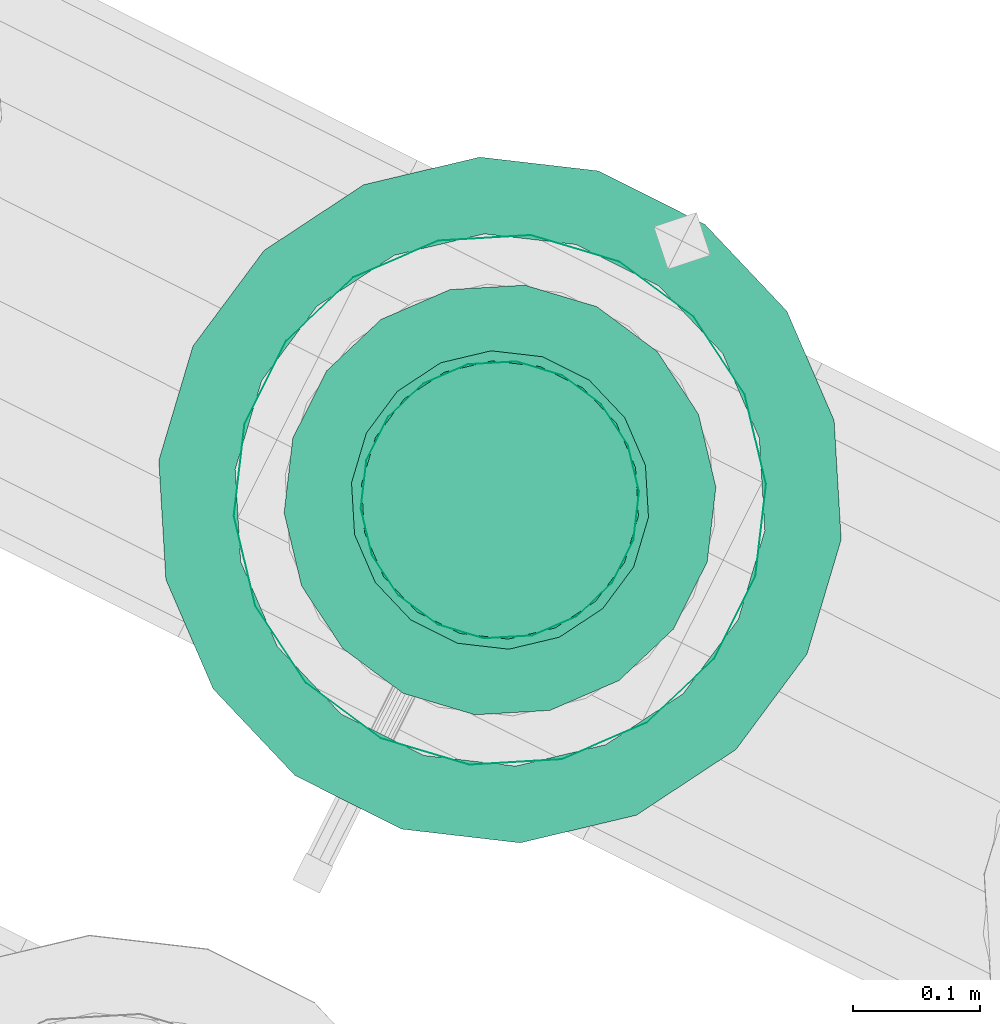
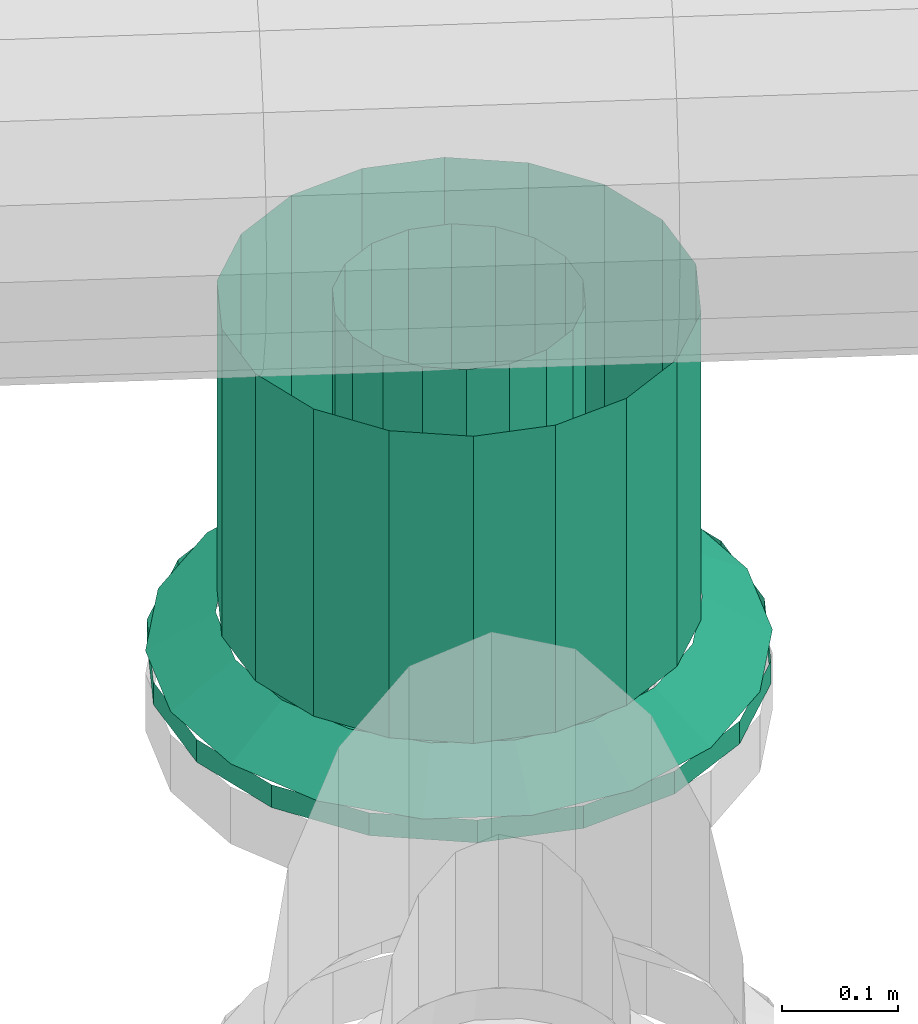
# One storey, part 93 of 152: 1 flow fitting, 1 flow segment.
"""IFC2X3 building model written with IfcOpenShell, lengths in metres."""

from ifc_helpers import new_model, si_unit, derived_unit, direction, frame, origin, place, context, subcontext, project, spatial, face_set, surface_model, source, transform, mapped, material, type_object, type_shapes, element, save


model = new_model("IFC2X3")

# Units and contexts
model_context = context("Model", 3, precision=5.2338327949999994e-05, world=origin(), true_north=direction((0.0, 1.0)))
body_context = subcontext(model_context, "Body", "Model", "MODEL_VIEW")
ifc_project = project(units=[si_unit("LENGTHUNIT", "METRE"), si_unit("AREAUNIT", "SQUARE_METRE"), si_unit("VOLUMEUNIT", "CUBIC_METRE"), si_unit("MASSUNIT", "GRAM", prefix="KILO"), si_unit("PLANEANGLEUNIT", "RADIAN"), derived_unit("THERMALTRANSMITTANCEUNIT", [(si_unit("MASSUNIT", "GRAM", prefix="KILO"), 1), (si_unit("THERMODYNAMICTEMPERATUREUNIT", "KELVIN"), -1), (si_unit("TIMEUNIT", "SECOND"), -3)])], contexts=[model_context])

# Site, building, storey
site_placement = place(None, frame((0.0, 0.0, 0.0), z_axis=(0.0, 0.0, 1.0), x_axis=(0.8939966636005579, -0.4480736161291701, 0.0)))
site = spatial("IfcSite", under=ifc_project, at=site_placement, Name="Default", CompositionType="ELEMENT")
building_placement = place(site_placement, origin())
building = spatial("IfcBuilding", under=site, at=building_placement, CompositionType="ELEMENT")
storey_placement = place(building_placement, frame((0.0, 0.0, 2.7499999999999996)))
storey = spatial("IfcBuildingStorey", under=building, at=storey_placement, Name="1. Obergeschoss", CompositionType="ELEMENT", Elevation=2.7499999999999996)

# Flow segment
ifc_material = material(Name="IfcSurfaceStyle #1741")
distribution_element_type_1 = type_object("IfcDistributionElementType", Name="Stahlrohr nach DIN 2448 247363:Stahlrohr nach DIN 2448 247363", material=ifc_material)
shared_shape_1 = source(origin(), body_context, "Body", "SurfaceModel", [
    surface_model("IfcFaceBasedSurfaceModel", [(5.8614190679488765, 7.902658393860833, 5.375028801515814), (5.82395076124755, 7.909265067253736, 5.375028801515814), (5.82395076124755, 7.909265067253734, 5.052622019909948), (5.8614190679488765, 7.902658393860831, 5.052622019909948), (5.791001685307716, 7.928288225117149, 5.375028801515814), (5.791001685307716, 7.928288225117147, 5.052622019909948), (5.766545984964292, 7.957433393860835, 5.375028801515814), (5.766545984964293, 7.957433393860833, 5.052622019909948), (5.753533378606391, 7.9931852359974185, 5.375028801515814), (5.753533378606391, 7.9931852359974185, 5.052622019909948), (5.753533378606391, 8.031231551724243, 5.375028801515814), (5.753533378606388, 8.031231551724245, 5.052622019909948), (5.766545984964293, 8.066983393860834, 5.375028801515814), (5.766545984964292, 8.066983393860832, 5.052622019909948), (5.791001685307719, 8.096128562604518, 5.375028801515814), (5.791001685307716, 8.096128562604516, 5.052622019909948), (5.823950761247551, 8.115151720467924, 5.375028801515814), (5.82395076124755, 8.115151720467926, 5.052622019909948), (5.861419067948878, 8.121758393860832, 5.375028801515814), (5.8614190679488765, 8.121758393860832, 5.052622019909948), (5.898887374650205, 8.115151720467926, 5.375028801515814), (5.898887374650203, 8.115151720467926, 5.052622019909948), (5.931836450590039, 8.096128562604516, 5.375028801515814), (5.931836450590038, 8.096128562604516, 5.052622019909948), (5.9562921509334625, 8.06698339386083, 5.375028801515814), (5.956292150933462, 8.06698339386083, 5.052622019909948), (5.969304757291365, 8.031231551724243, 5.375028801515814), (5.969304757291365, 8.031231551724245, 5.052622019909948), (5.969304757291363, 7.9931852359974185, 5.375028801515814), (5.969304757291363, 7.9931852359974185, 5.052622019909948), (5.956292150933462, 7.957433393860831, 5.375028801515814), (5.956292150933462, 7.957433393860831, 5.052622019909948), (5.931836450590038, 7.928288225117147, 5.375028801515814), (5.931836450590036, 7.928288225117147, 5.052622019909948), (5.8988873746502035, 7.909265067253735, 5.375028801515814), (5.898887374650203, 7.909265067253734, 5.052622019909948), (5.8614190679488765, 7.802658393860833, 5.375028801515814), (5.789748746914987, 7.815295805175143, 5.375028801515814), (5.789748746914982, 7.815295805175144, 5.052622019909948), (5.8614190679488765, 7.802658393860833, 5.052622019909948), (5.726722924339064, 7.85168378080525, 5.375028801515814), (5.726722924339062, 7.85168378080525, 5.052622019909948), (5.679943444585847, 7.907433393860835, 5.375028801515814), (5.679943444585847, 7.90743339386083, 5.052622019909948), (5.655052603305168, 7.975820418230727, 5.375028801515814), (5.655052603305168, 7.975820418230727, 5.052622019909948), (5.655052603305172, 8.048596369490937, 5.375028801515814), (5.655052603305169, 8.048596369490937, 5.052622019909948), (5.679943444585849, 8.116983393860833, 5.375028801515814), (5.679943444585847, 8.11698339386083, 5.052622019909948), (5.7267229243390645, 8.172733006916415, 5.375028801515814), (5.726722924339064, 8.172733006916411, 5.052622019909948), (5.789748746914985, 8.20912098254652, 5.375028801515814), (5.789748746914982, 8.20912098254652, 5.052622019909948), (5.861419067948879, 8.221758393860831, 5.375028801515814), (5.861419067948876, 8.22175839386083, 5.052622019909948), (5.933089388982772, 8.209120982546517, 5.375028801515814), (5.933089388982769, 8.20912098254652, 5.052622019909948), (5.996115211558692, 8.172733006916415, 5.375028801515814), (5.99611521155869, 8.172733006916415, 5.052622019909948), (6.042894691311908, 8.11698339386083, 5.375028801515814), (6.042894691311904, 8.11698339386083, 5.052622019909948), (6.067785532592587, 8.048596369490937, 5.375028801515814), (6.067785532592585, 8.048596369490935, 5.052622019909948), (6.067785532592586, 7.975820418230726, 5.375028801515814), (6.067785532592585, 7.975820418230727, 5.052622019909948), (6.042894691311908, 7.907433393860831, 5.375028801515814), (6.042894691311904, 7.90743339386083, 5.052622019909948), (5.996115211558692, 7.851683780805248, 5.375028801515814), (5.996115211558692, 7.851683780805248, 5.052622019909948), (5.933089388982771, 7.815295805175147, 5.375028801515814), (5.9330893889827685, 7.815295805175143, 5.052622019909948)], [face_set([[[0, 1, 2, 3]], [[1, 4, 5, 2]], [[4, 6, 7, 5]], [[6, 8, 9, 7]], [[8, 10, 11, 9]], [[10, 12, 13, 11]], [[12, 14, 15, 13]], [[14, 16, 17, 15]], [[16, 18, 19, 17]], [[18, 20, 21, 19]], [[20, 22, 23, 21]], [[22, 24, 25, 23]], [[24, 26, 27, 25]], [[26, 28, 29, 27]], [[28, 30, 31, 29]], [[30, 32, 33, 31]], [[32, 34, 35, 33]], [[34, 0, 3, 35]], [[36, 37, 38, 39]], [[37, 40, 41, 38]], [[40, 42, 43, 41]], [[42, 44, 45, 43]], [[44, 46, 47, 45]], [[46, 48, 49, 47]], [[48, 50, 51, 49]], [[50, 52, 53, 51]], [[52, 54, 55, 53]], [[54, 56, 57, 55]], [[56, 58, 59, 57]], [[58, 60, 61, 59]], [[60, 62, 63, 61]], [[62, 64, 65, 63]], [[64, 66, 67, 65]], [[66, 68, 69, 67]], [[68, 70, 71, 69]], [[70, 36, 39, 71]]])]),
])
type_shapes(distribution_element_type_1, [shared_shape_1])
flow_segment_placement = place(storey_placement, frame((0.0, 0.0, -2.7499999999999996)))
element("IfcFlowSegment", 1, at=flow_segment_placement, inside=storey, type_object=distribution_element_type_1, material=ifc_material, Name="Stahlrohr nach DIN 2448", ObjectType="Stahlrohr nach DIN 2448", context=body_context, shape_type="MappedRepresentation", body=[
    mapped(shared_shape_1, transform((0.0, 0.0, 0.0), scale=1.0)),
])

# Flow fitting
distribution_element_type_2 = type_object("IfcDistributionElementType", Name="Flansch 247386:Flansch 247386", material=ifc_material)
shared_shape_2 = source(origin(), body_context, "Body", "SurfaceModel", [
    surface_model("IfcFaceBasedSurfaceModel", [(5.751869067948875, 8.012208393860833, 5.052622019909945), (5.758475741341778, 8.049676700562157, 5.052622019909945), (5.751005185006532, 8.052395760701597, 5.0146220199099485), (5.743919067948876, 8.012208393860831, 5.0146220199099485), (5.777498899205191, 8.082625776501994, 5.052622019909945), (5.771408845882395, 8.087735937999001, 5.0146220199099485), (5.806644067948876, 8.107081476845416, 5.052622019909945), (5.802669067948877, 8.113966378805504, 5.014622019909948), (5.842395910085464, 8.120094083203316, 5.052622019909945), (5.841015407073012, 8.127923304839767, 5.014622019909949), (5.880442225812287, 8.120094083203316, 5.052622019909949), (5.881822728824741, 8.127923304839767, 5.0146220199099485), (5.916194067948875, 8.107081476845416, 5.052622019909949), (5.920169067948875, 8.113966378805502, 5.014622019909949), (5.9453392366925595, 8.08262577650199, 5.052622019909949), (5.951429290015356, 8.087735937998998, 5.014622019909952), (5.964362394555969, 8.049676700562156, 5.05262201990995), (5.97183295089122, 8.052395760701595, 5.014622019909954), (5.970969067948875, 8.01220839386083, 5.05262201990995), (5.978919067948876, 8.01220839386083, 5.014622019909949), (5.964362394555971, 7.974740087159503, 5.0526220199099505), (5.971832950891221, 7.972021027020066, 5.014622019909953), (5.94533923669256, 7.94179101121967, 5.0526220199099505), (5.951429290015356, 7.936680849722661, 5.014622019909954), (5.916194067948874, 7.917335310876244, 5.05262201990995), (5.920169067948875, 7.910450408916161, 5.014622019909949), (5.880442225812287, 7.904322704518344, 5.052622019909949), (5.88182272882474, 7.896493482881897, 5.014622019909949), (5.842395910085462, 7.904322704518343, 5.052622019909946), (5.8410154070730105, 7.896493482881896, 5.014622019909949), (5.806644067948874, 7.917335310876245, 5.052622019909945), (5.802669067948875, 7.910450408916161, 5.0146220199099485), (5.77749889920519, 7.941791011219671, 5.052622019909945), (5.771408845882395, 7.936680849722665, 5.014622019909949), (5.758475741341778, 7.974740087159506, 5.052622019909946), (5.751005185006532, 7.972021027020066, 5.0146220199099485), (5.8614190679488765, 8.182208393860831, 5.0146220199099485), (5.91956249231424, 8.171956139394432, 5.01462201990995), (5.91956249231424, 8.171956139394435, 4.990622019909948), (5.861419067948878, 8.182208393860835, 4.990622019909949), (5.970692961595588, 8.142435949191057, 5.01462201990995), (5.970692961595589, 8.142435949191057, 4.990622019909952), (6.008643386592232, 8.09720839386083, 5.014622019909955), (6.008643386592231, 8.09720839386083, 4.990622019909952), (6.028836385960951, 8.041728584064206, 5.014622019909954), (6.028836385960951, 8.041728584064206, 4.990622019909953), (6.02883638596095, 7.982688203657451, 5.014622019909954), (6.028836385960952, 7.982688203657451, 4.990622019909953), (6.00864338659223, 7.927208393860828, 5.014622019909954), (6.00864338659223, 7.927208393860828, 4.990622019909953), (5.970692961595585, 7.881980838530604, 5.014622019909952), (5.970692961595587, 7.881980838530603, 4.990622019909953), (5.919562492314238, 7.8524606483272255, 5.01462201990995), (5.919562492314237, 7.852460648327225, 4.990622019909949), (5.861419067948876, 7.842208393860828, 5.0146220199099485), (5.861419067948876, 7.8422083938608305, 4.990622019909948), (5.803275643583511, 7.8524606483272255, 5.0146220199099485), (5.803275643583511, 7.8524606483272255, 4.990622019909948), (5.7521451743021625, 7.881980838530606, 5.0146220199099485), (5.752145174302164, 7.881980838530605, 4.9906220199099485), (5.714194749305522, 7.927208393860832, 5.0146220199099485), (5.714194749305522, 7.927208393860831, 4.990622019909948), (5.694001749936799, 7.982688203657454, 5.014622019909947), (5.694001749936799, 7.982688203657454, 4.990622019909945), (5.694001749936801, 8.041728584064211, 5.014622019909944), (5.694001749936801, 8.041728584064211, 4.990622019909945), (5.714194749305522, 8.097208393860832, 5.0146220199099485), (5.714194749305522, 8.097208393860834, 4.990622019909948), (5.752145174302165, 8.14243594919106, 5.0146220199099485), (5.752145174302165, 8.14243594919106, 4.990622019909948), (5.803275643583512, 8.171956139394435, 5.0146220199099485), (5.803275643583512, 8.171956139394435, 4.990622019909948), (5.861419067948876, 8.012208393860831, 5.014622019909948), (5.651869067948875, 8.012208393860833, 5.052622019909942), (5.664506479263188, 8.083878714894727, 5.052622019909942), (5.60770206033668, 8.104553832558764, 5.014622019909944), (5.591419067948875, 8.012208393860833, 5.014622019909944), (5.7008944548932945, 8.146904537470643, 5.052622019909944), (5.654587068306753, 8.185761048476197, 5.014622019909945), (5.756644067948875, 8.193684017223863, 5.052622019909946), (5.726419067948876, 8.246035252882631, 5.014622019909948), (5.8250310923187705, 8.218574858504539, 5.052622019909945), (5.814534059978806, 8.278106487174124, 5.0146220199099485), (5.89780704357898, 8.218574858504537, 5.05262201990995), (5.908304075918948, 8.278106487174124, 5.01462201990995), (5.966194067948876, 8.19368401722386, 5.052622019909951), (5.996419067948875, 8.246035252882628, 5.01462201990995), (6.021943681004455, 8.146904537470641, 5.052622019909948), (6.068251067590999, 8.185761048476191, 5.014622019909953), (6.058331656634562, 8.083878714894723, 5.052622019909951), (6.115136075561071, 8.104553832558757, 5.014622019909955), (6.070969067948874, 8.01220839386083, 5.0526220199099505), (6.131419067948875, 8.012208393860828, 5.014622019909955), (6.058331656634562, 7.940538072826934, 5.0526220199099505), (6.11513607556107, 7.919862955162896, 5.014622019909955), (6.021943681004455, 7.877512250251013, 5.052622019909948), (6.068251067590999, 7.8386557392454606, 5.014622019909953), (5.966194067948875, 7.830732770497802, 5.052622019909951), (5.996419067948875, 7.7783815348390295, 5.014622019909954), (5.897807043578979, 7.805841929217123, 5.0526220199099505), (5.908304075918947, 7.746310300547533, 5.014622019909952), (5.825031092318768, 7.805841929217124, 5.052622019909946), (5.814534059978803, 7.746310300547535, 5.014622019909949), (5.756644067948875, 7.8307327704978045, 5.052622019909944), (5.726419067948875, 7.778381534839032, 5.014622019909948), (5.700894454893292, 7.877512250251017, 5.052622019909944), (5.654587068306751, 7.838655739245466, 5.014622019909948), (5.664506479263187, 7.940538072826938, 5.052622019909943), (5.60770206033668, 7.919862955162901, 5.014622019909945), (5.861419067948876, 8.28220839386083, 5.0146220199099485), (5.953764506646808, 8.265925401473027, 5.01462201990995), (5.953764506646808, 8.265925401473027, 4.990622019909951), (5.861419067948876, 8.282208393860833, 4.990622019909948), (6.034971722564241, 8.219040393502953, 5.01462201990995), (6.034971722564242, 8.219040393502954, 4.990622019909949), (6.095245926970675, 8.147208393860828, 5.014622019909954), (6.095245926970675, 8.14720839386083, 4.990622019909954), (6.127317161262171, 8.059093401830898, 5.014622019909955), (6.127317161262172, 8.059093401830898, 4.990622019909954), (6.127317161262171, 7.965323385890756, 5.014622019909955), (6.127317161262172, 7.965323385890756, 4.9906220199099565), (6.095245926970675, 7.877208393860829, 5.014622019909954), (6.095245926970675, 7.877208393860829, 4.990622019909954), (6.034971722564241, 7.805376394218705, 5.014622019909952), (6.034971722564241, 7.805376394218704, 4.990622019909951), (5.953764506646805, 7.758491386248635, 5.014622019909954), (5.953764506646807, 7.758491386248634, 4.990622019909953), (5.861419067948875, 7.74220839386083, 5.014622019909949), (5.861419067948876, 7.74220839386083, 4.9906220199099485), (5.769073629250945, 7.758491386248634, 5.014622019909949), (5.769073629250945, 7.758491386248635, 4.9906220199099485), (5.68786641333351, 7.805376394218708, 5.014622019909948), (5.68786641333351, 7.805376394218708, 4.990622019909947), (5.6275922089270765, 7.8772083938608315, 5.014622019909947), (5.6275922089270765, 7.877208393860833, 4.990622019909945), (5.595520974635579, 7.965323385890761, 5.014622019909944), (5.595520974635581, 7.965323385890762, 4.990622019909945), (5.595520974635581, 8.059093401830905, 5.014622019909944), (5.595520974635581, 8.059093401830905, 4.990622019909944), (5.6275922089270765, 8.147208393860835, 5.014622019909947), (5.627592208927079, 8.147208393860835, 4.990622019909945), (5.687866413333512, 8.219040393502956, 5.014622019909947), (5.687866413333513, 8.219040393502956, 4.990622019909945), (5.769073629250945, 8.265925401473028, 5.0146220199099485), (5.769073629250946, 8.265925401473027, 4.990622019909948)], [face_set([[[0, 1, 2, 3]], [[1, 4, 5, 2]], [[4, 6, 7, 5]], [[6, 8, 9, 7]], [[8, 10, 11, 9]], [[10, 12, 13, 11]], [[12, 14, 15, 13]], [[14, 16, 17, 15]], [[16, 18, 19, 17]], [[18, 20, 21, 19]], [[20, 22, 23, 21]], [[22, 24, 25, 23]], [[24, 26, 27, 25]], [[26, 28, 29, 27]], [[28, 30, 31, 29]], [[30, 32, 33, 31]], [[32, 34, 35, 33]], [[34, 0, 3, 35]], [[36, 37, 38, 39]], [[37, 40, 41, 38]], [[40, 42, 43, 41]], [[42, 44, 45, 43]], [[44, 46, 47, 45]], [[46, 48, 49, 47]], [[48, 50, 51, 49]], [[50, 52, 53, 51]], [[52, 54, 55, 53]], [[54, 56, 57, 55]], [[56, 58, 59, 57]], [[58, 60, 61, 59]], [[60, 62, 63, 61]], [[62, 64, 65, 63]], [[64, 66, 67, 65]], [[66, 68, 69, 67]], [[68, 70, 71, 69]], [[70, 36, 39, 71]], [[72, 37, 36]], [[72, 40, 37]], [[72, 42, 40]], [[72, 44, 42]], [[72, 46, 44]], [[72, 48, 46]], [[72, 50, 48]], [[72, 52, 50]], [[72, 54, 52]], [[72, 56, 54]], [[72, 58, 56]], [[72, 60, 58]], [[72, 62, 60]], [[72, 64, 62]], [[72, 66, 64]], [[72, 68, 66]], [[72, 70, 68]], [[72, 36, 70]], [[73, 74, 75, 76]], [[74, 77, 78, 75]], [[77, 79, 80, 78]], [[79, 81, 82, 80]], [[81, 83, 84, 82]], [[83, 85, 86, 84]], [[85, 87, 88, 86]], [[87, 89, 90, 88]], [[89, 91, 92, 90]], [[91, 93, 94, 92]], [[93, 95, 96, 94]], [[95, 97, 98, 96]], [[97, 99, 100, 98]], [[99, 101, 102, 100]], [[101, 103, 104, 102]], [[103, 105, 106, 104]], [[105, 107, 108, 106]], [[107, 73, 76, 108]], [[109, 110, 111, 112]], [[110, 113, 114, 111]], [[113, 115, 116, 114]], [[115, 117, 118, 116]], [[117, 119, 120, 118]], [[119, 121, 122, 120]], [[121, 123, 124, 122]], [[123, 125, 126, 124]], [[125, 127, 128, 126]], [[127, 129, 130, 128]], [[129, 131, 132, 130]], [[131, 133, 134, 132]], [[133, 135, 136, 134]], [[135, 137, 138, 136]], [[137, 139, 140, 138]], [[139, 141, 142, 140]], [[141, 143, 144, 142]], [[143, 109, 112, 144]]])]),
])
type_shapes(distribution_element_type_2, [shared_shape_2])
flow_fitting_placement = place(storey_placement, frame((0.0, 0.0, -2.7499999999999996)))
element("IfcFlowFitting", 2, at=flow_fitting_placement, inside=storey, type_object=distribution_element_type_2, material=ifc_material, Name="Flansch", ObjectType="Flansch", context=body_context, shape_type="MappedRepresentation", body=[
    mapped(shared_shape_2, transform((0.0, 0.0, 0.0), scale=1.0)),
])

save(model, "model.ifc")
